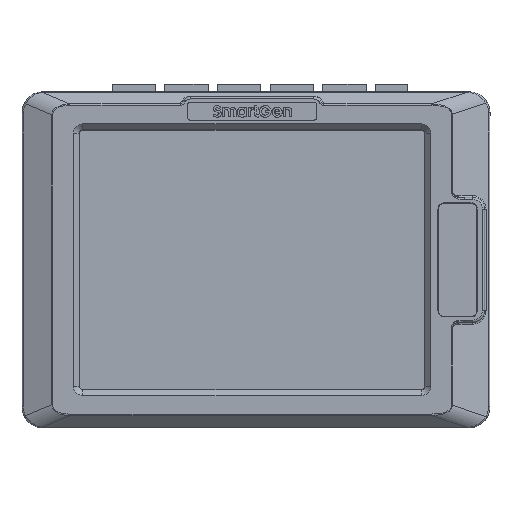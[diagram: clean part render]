
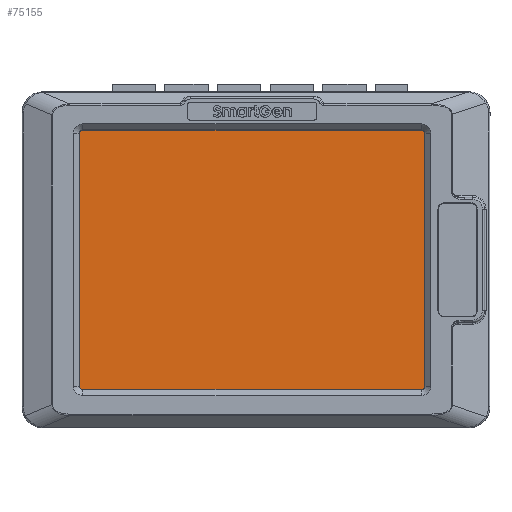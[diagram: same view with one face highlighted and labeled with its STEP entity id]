
A CAD part, top view. The second image highlights one B-rep face of the part: STEP entity #75155.
In plain terms, the highlighted planar face has unit normal (0, 0, 1).
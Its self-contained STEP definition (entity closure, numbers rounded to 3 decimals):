
#802 = VECTOR ( 'NONE', #6052, 1000. ) ;
#850 = ORIENTED_EDGE ( 'NONE', *, *, #29492, .T. ) ;
#1310 = DIRECTION ( 'NONE',  ( 0., 0., 1. ) ) ;
#2463 = CARTESIAN_POINT ( 'NONE',  ( -81.84, -61.224, -4.7 ) ) ;
#3942 = LINE ( 'NONE', #126619, #802 ) ;
#4020 = CARTESIAN_POINT ( 'NONE',  ( 79.634, 59.75, -4.7 ) ) ;
#4933 = EDGE_CURVE ( 'NONE', #57208, #124787, #51060, .T. ) ;
#6000 = EDGE_CURVE ( 'NONE', #111910, #62071, #66587, .T. ) ;
#6052 = DIRECTION ( 'NONE',  ( 0., -1., 0. ) ) ;
#6287 = FACE_OUTER_BOUND ( 'NONE', #52446, .T. ) ;
#12143 = CARTESIAN_POINT ( 'NONE',  ( -81.84, -61.224, -4.7 ) ) ;
#14358 = PLANE ( 'NONE',  #60778 ) ;
#14369 = VERTEX_POINT ( 'NONE', #52925 ) ;
#15315 = DIRECTION ( 'NONE',  ( 0., 0., 1. ) ) ;
#16402 = VERTEX_POINT ( 'NONE', #39738 ) ;
#16438 = ORIENTED_EDGE ( 'NONE', *, *, #6000, .T. ) ;
#20186 = VERTEX_POINT ( 'NONE', #92452 ) ;
#23633 = CARTESIAN_POINT ( 'NONE',  ( -81.84, 59.75, -4.7 ) ) ;
#24463 = DIRECTION ( 'NONE',  ( 0., 0., 1. ) ) ;
#27847 = ORIENTED_EDGE ( 'NONE', *, *, #87771, .T. ) ;
#27995 = CIRCLE ( 'NONE', #90155, 1.474 ) ;
#29492 = EDGE_CURVE ( 'NONE', #16402, #57208, #71990, .T. ) ;
#30668 = CARTESIAN_POINT ( 'NONE',  ( 78.16, 61.224, -4.7 ) ) ;
#30821 = CARTESIAN_POINT ( 'NONE',  ( 78.16, 59.75, -4.7 ) ) ;
#33763 = DIRECTION ( 'NONE',  ( 0., -1., 0. ) ) ;
#37895 = ORIENTED_EDGE ( 'NONE', *, *, #101354, .T. ) ;
#39738 = CARTESIAN_POINT ( 'NONE',  ( 78.16, 61.224, -4.7 ) ) ;
#40931 = DIRECTION ( 'NONE',  ( 0., -1., 0. ) ) ;
#41822 = VECTOR ( 'NONE', #75636, 1000. ) ;
#44641 = AXIS2_PLACEMENT_3D ( 'NONE', #23633, #93886, #33763 ) ;
#51060 = CIRCLE ( 'NONE', #44641, 1.474 ) ;
#52446 = EDGE_LOOP ( 'NONE', ( #53166, #61700, #37895, #16438, #127063, #27847, #126325, #850 ) ) ;
#52925 = CARTESIAN_POINT ( 'NONE',  ( -83.314, -59.75, -4.7 ) ) ;
#53166 = ORIENTED_EDGE ( 'NONE', *, *, #4933, .T. ) ;
#57208 = VERTEX_POINT ( 'NONE', #108548 ) ;
#60778 = AXIS2_PLACEMENT_3D ( 'NONE', #84595, #24463, #94780 ) ;
#61449 = AXIS2_PLACEMENT_3D ( 'NONE', #30821, #101134, #40931 ) ;
#61513 = CARTESIAN_POINT ( 'NONE',  ( 78.16, -59.75, -4.7 ) ) ;
#61700 = ORIENTED_EDGE ( 'NONE', *, *, #71034, .T. ) ;
#62071 = VERTEX_POINT ( 'NONE', #122740 ) ;
#62660 = DIRECTION ( 'NONE',  ( 1., 0., 0. ) ) ;
#64211 = EDGE_CURVE ( 'NONE', #62071, #20186, #27995, .T. ) ;
#64908 = CIRCLE ( 'NONE', #61449, 1.474 ) ;
#66587 = LINE ( 'NONE', #2463, #90226 ) ;
#71034 = EDGE_CURVE ( 'NONE', #124787, #14369, #3942, .T. ) ;
#71566 = DIRECTION ( 'NONE',  ( 0., -1., 0. ) ) ;
#71651 = LINE ( 'NONE', #105993, #41822 ) ;
#71990 = LINE ( 'NONE', #30668, #122509 ) ;
#75155 = ADVANCED_FACE ( 'NONE', ( #6287 ), #14358, .T. ) ;
#75490 = CARTESIAN_POINT ( 'NONE',  ( -81.84, -59.75, -4.7 ) ) ;
#75636 = DIRECTION ( 'NONE',  ( 0., 1., 0. ) ) ;
#84366 = CARTESIAN_POINT ( 'NONE',  ( -83.314, 59.75, -4.7 ) ) ;
#84595 = CARTESIAN_POINT ( 'NONE',  ( -93.34, 70.5, -4.7 ) ) ;
#85585 = DIRECTION ( 'NONE',  ( 0., -1., 0. ) ) ;
#87771 = EDGE_CURVE ( 'NONE', #20186, #113264, #71651, .T. ) ;
#90155 = AXIS2_PLACEMENT_3D ( 'NONE', #61513, #1310, #71566 ) ;
#90226 = VECTOR ( 'NONE', #62660, 1000. ) ;
#92452 = CARTESIAN_POINT ( 'NONE',  ( 79.634, -59.75, -4.7 ) ) ;
#92990 = CIRCLE ( 'NONE', #121760, 1.474 ) ;
#93886 = DIRECTION ( 'NONE',  ( 0., 0., 1. ) ) ;
#94780 = DIRECTION ( 'NONE',  ( 1., 0., 0. ) ) ;
#100971 = DIRECTION ( 'NONE',  ( -1., 0., 0. ) ) ;
#101134 = DIRECTION ( 'NONE',  ( 0., 0., 1. ) ) ;
#101354 = EDGE_CURVE ( 'NONE', #14369, #111910, #92990, .T. ) ;
#105993 = CARTESIAN_POINT ( 'NONE',  ( 79.634, -59.75, -4.7 ) ) ;
#108548 = CARTESIAN_POINT ( 'NONE',  ( -81.84, 61.224, -4.7 ) ) ;
#111910 = VERTEX_POINT ( 'NONE', #12143 ) ;
#113264 = VERTEX_POINT ( 'NONE', #4020 ) ;
#121760 = AXIS2_PLACEMENT_3D ( 'NONE', #75490, #15315, #85585 ) ;
#122509 = VECTOR ( 'NONE', #100971, 1000. ) ;
#122740 = CARTESIAN_POINT ( 'NONE',  ( 78.16, -61.224, -4.7 ) ) ;
#124787 = VERTEX_POINT ( 'NONE', #84366 ) ;
#126325 = ORIENTED_EDGE ( 'NONE', *, *, #129842, .T. ) ;
#126619 = CARTESIAN_POINT ( 'NONE',  ( -83.314, 59.75, -4.7 ) ) ;
#127063 = ORIENTED_EDGE ( 'NONE', *, *, #64211, .T. ) ;
#129842 = EDGE_CURVE ( 'NONE', #113264, #16402, #64908, .T. ) ;
